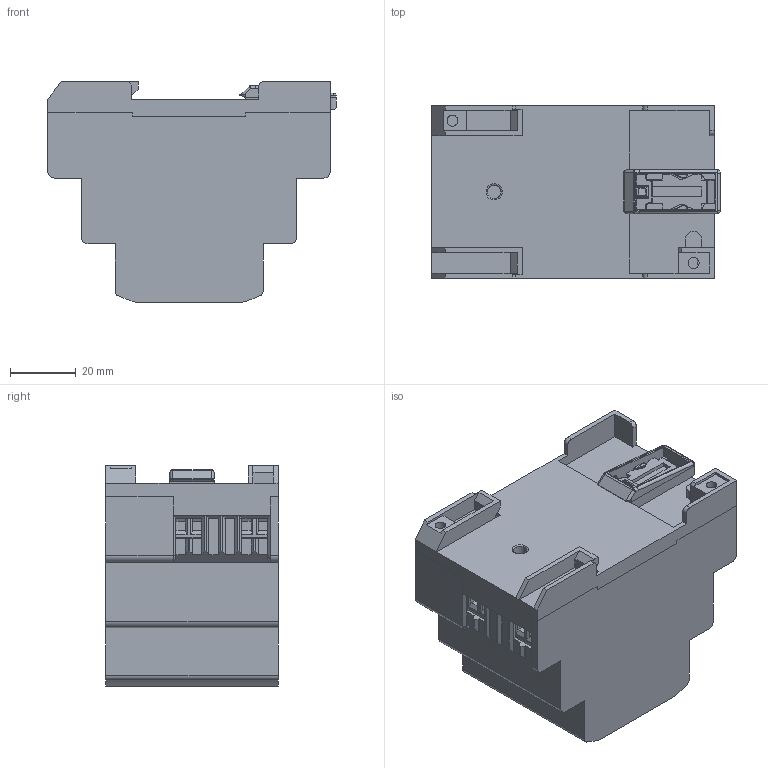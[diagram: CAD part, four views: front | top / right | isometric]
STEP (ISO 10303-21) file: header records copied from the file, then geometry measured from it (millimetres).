
FILE_DESCRIPTION (( 'STEP AP214' ), '1' );
FILE_NAME ('UTZ.step', '2011-08-23T07:57:22', ( 'Radek Veselý' ), ( 'Siemens and Partners' ), 'SwSTEP 2.0', 'SolidWorks 2006303', '' );
FILE_SCHEMA (( 'AUTOMOTIVE_DESIGN' ));
Length unit declared in the file: millimetre
Products named in the file (1): UTZ
Bounding box: 87.8 x 52.51 x 67.09 mm (x, y, z)
Volume: 41181.4 mm3; surface area: 58797 mm2
Topology: 14 solids, 14 shells, 1128 faces, 2961 edges, 1901 vertices
Faces by surface type: plane 793, cylinder 196, cone 52, bspline 45, torus 34, sphere 8
Entity records: 47596 total; most frequent: CARTESIAN_POINT 7460, ORIENTED_EDGE 5898, DIRECTION 5487, EDGE_CURVE 2949, VECTOR 2247, LINE 2247, VERTEX_POINT 1901, AXIS2_PLACEMENT_3D 1620
